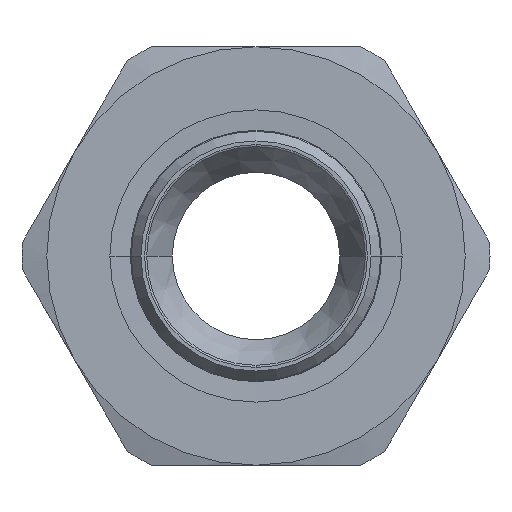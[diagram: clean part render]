
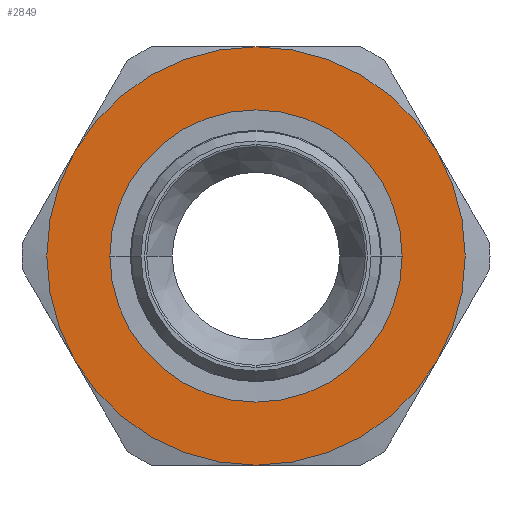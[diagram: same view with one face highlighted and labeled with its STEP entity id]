
A CAD part, left-side view. The second image highlights one B-rep face of the part: STEP entity #2849.
In plain terms, the highlighted planar face has unit normal (-1, 0, 0) as drawn and (0, 0, 1) by its records, which use the part's own axes.
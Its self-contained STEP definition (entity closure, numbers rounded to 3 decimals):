
#1176=CARTESIAN_POINT('',(0.,-24.45,8.5));
#1177=VERTEX_POINT('',#1176);
#1193=CARTESIAN_POINT('',(0.,24.45,8.5));
#1194=VERTEX_POINT('',#1193);
#1201=CARTESIAN_POINT('',(0.,0.,8.5));
#1202=DIRECTION('',(0.0,0.0,-1.0));
#1203=DIRECTION('',(0.0,-1.0,0.0));
#1204=AXIS2_PLACEMENT_3D('',#1201,#1202,#1203);
#1205=CIRCLE('',#1204,24.45);
#1206=EDGE_CURVE('',#1177,#1194,#1205,.T.);
#1663=CARTESIAN_POINT('',(0.,0.,8.5));
#1664=DIRECTION('',(0.0,0.0,-1.0));
#1665=DIRECTION('',(0.0,-1.0,0.0));
#1666=AXIS2_PLACEMENT_3D('',#1663,#1664,#1665);
#1667=CIRCLE('',#1666,24.45);
#1668=EDGE_CURVE('',#1194,#1177,#1667,.T.);
#2222=CARTESIAN_POINT('',(17.5,-30.311,8.5));
#2223=VERTEX_POINT('',#2222);
#2237=CARTESIAN_POINT('',(-17.5,-30.311,8.5));
#2238=VERTEX_POINT('',#2237);
#2239=CARTESIAN_POINT('',(0.,0.0,8.5));
#2240=DIRECTION('',(0.0,0.0,1.0));
#2241=DIRECTION('',(1.0,0.0,0.0));
#2242=AXIS2_PLACEMENT_3D('',#2239,#2240,#2241);
#2243=CIRCLE('',#2242,35.);
#2244=EDGE_CURVE('',#2238,#2223,#2243,.T.);
#2322=CARTESIAN_POINT('',(-35.0,0.,8.5));
#2323=VERTEX_POINT('',#2322);
#2324=CARTESIAN_POINT('',(0.,0.0,8.5));
#2325=DIRECTION('',(0.0,0.0,1.0));
#2326=DIRECTION('',(1.0,0.0,0.0));
#2327=AXIS2_PLACEMENT_3D('',#2324,#2325,#2326);
#2328=CIRCLE('',#2327,35.);
#2329=EDGE_CURVE('',#2323,#2238,#2328,.T.);
#2406=CARTESIAN_POINT('',(-17.5,30.311,8.5));
#2407=VERTEX_POINT('',#2406);
#2408=CARTESIAN_POINT('',(0.,0.0,8.5));
#2409=DIRECTION('',(0.0,0.0,1.0));
#2410=DIRECTION('',(1.0,0.0,0.0));
#2411=AXIS2_PLACEMENT_3D('',#2408,#2409,#2410);
#2412=CIRCLE('',#2411,35.);
#2413=EDGE_CURVE('',#2407,#2323,#2412,.T.);
#2490=CARTESIAN_POINT('',(17.5,30.311,8.5));
#2491=VERTEX_POINT('',#2490);
#2492=CARTESIAN_POINT('',(0.,0.0,8.5));
#2493=DIRECTION('',(0.0,0.0,1.0));
#2494=DIRECTION('',(1.0,0.0,0.0));
#2495=AXIS2_PLACEMENT_3D('',#2492,#2493,#2494);
#2496=CIRCLE('',#2495,35.);
#2497=EDGE_CURVE('',#2491,#2407,#2496,.T.);
#2575=CARTESIAN_POINT('',(35.0,0.0,8.5));
#2576=VERTEX_POINT('',#2575);
#2577=CARTESIAN_POINT('',(0.,0.0,8.5));
#2578=DIRECTION('',(0.0,0.0,1.0));
#2579=DIRECTION('',(1.0,0.0,0.0));
#2580=AXIS2_PLACEMENT_3D('',#2577,#2578,#2579);
#2581=CIRCLE('',#2580,35.);
#2582=EDGE_CURVE('',#2576,#2491,#2581,.T.);
#2659=CARTESIAN_POINT('',(0.,0.0,8.5));
#2660=DIRECTION('',(0.0,0.0,1.0));
#2661=DIRECTION('',(1.0,0.0,0.0));
#2662=AXIS2_PLACEMENT_3D('',#2659,#2660,#2661);
#2663=CIRCLE('',#2662,35.);
#2664=EDGE_CURVE('',#2223,#2576,#2663,.T.);
#2832=CARTESIAN_POINT('',(0.,0.,8.5));
#2833=DIRECTION('',(0.0,0.0,1.0));
#2834=DIRECTION('',(1.0,0.0,0.0));
#2835=AXIS2_PLACEMENT_3D('',#2832,#2833,#2834);
#2836=PLANE('',#2835);
#2837=ORIENTED_EDGE('',*,*,#2664,.T.);
#2838=ORIENTED_EDGE('',*,*,#2582,.T.);
#2839=ORIENTED_EDGE('',*,*,#2497,.T.);
#2840=ORIENTED_EDGE('',*,*,#2413,.T.);
#2841=ORIENTED_EDGE('',*,*,#2329,.T.);
#2842=ORIENTED_EDGE('',*,*,#2244,.T.);
#2843=EDGE_LOOP('',(#2837,#2838,#2839,#2840,#2841,#2842));
#2844=FACE_OUTER_BOUND('',#2843,.T.);
#2845=ORIENTED_EDGE('',*,*,#1206,.T.);
#2846=ORIENTED_EDGE('',*,*,#1668,.T.);
#2847=EDGE_LOOP('',(#2845,#2846));
#2848=FACE_BOUND('',#2847,.T.);
#2849=ADVANCED_FACE('',(#2844,#2848),#2836,.T.);
